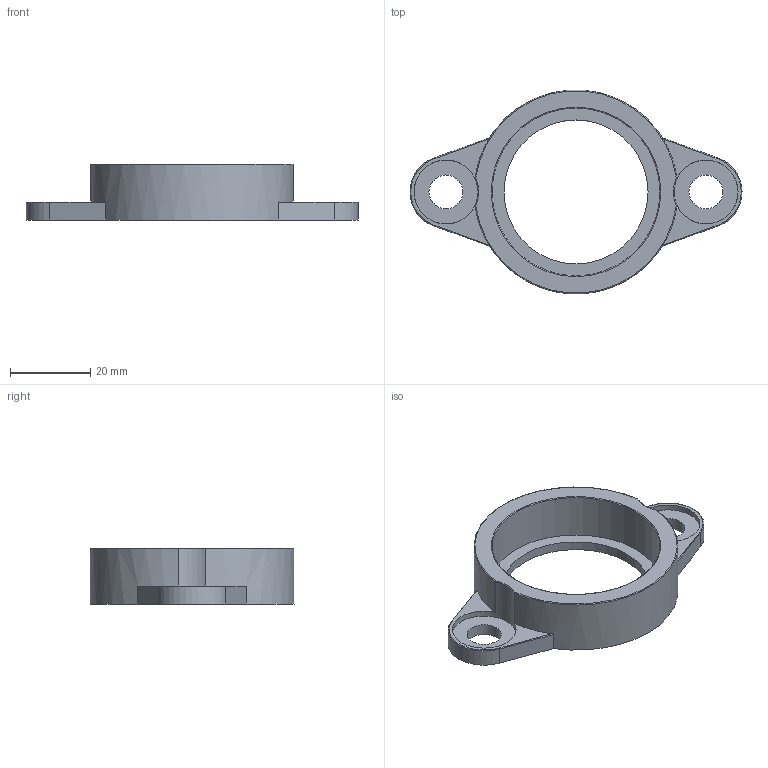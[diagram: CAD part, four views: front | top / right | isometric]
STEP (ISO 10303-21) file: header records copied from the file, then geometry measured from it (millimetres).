
FILE_DESCRIPTION(/* description */ ('BEARING HOUSE FOR 6004'),/* implementation_level */ '2;1');
FILE_NAME(/* name */ '\\carryline.intra\privat\users\mathias\Desktop\Tillfälliga filer\200-6050.stp',/* time_stamp */ '2018-11-29T10:01:52+01:00',/* author */ ('ML'),/* organization */ ('CARRYLINE'),/* preprocessor_version */ 'ST-DEVELOPER v17',/* originating_system */ 'Autodesk Inventor 2018',/* authorisation */ '');
FILE_SCHEMA (('AUTOMOTIVE_DESIGN { 1 0 10303 214 3 1 1 }'));
Length unit declared in the file: millimetre
Products named in the file (1): 200-6050
Bounding box: 83 x 51 x 14 mm (x, y, z)
Volume: 11830.6 mm3; surface area: 7592.8 mm2
Topology: 1 solids, 1 shells, 40 faces, 94 edges, 57 vertices
Faces by surface type: cylinder 18, plane 11, torus 7, sphere 4
Full cylindrical faces by diameter (mm): 8.5 x2, 16 x2, 36 x1, 42 x1
Entity records: 1245 total; most frequent: CARTESIAN_POINT 236, DIRECTION 228, ORIENTED_EDGE 188, AXIS2_PLACEMENT_3D 97, EDGE_CURVE 94, VERTEX_POINT 57, CIRCLE 56, EDGE_LOOP 47
